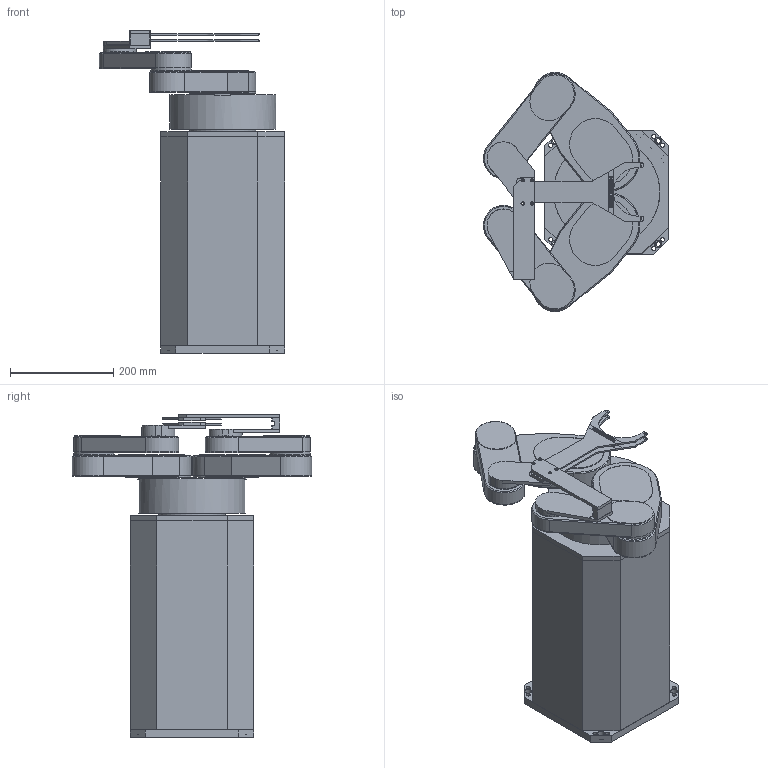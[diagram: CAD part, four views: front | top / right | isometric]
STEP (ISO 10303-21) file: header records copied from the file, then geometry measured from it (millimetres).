
FILE_DESCRIPTION(/* description */ (''),/* implementation_level */ '2;1');
FILE_NAME(/* name */ 'C:\Users\h-mitaka\Desktop\新しいフォルダー\2D-09738\STCR4160SN-300-CM-09738.stp',/* time_stamp */ '2018-04-05T10:13:30+09:00',/* author */ ('h-mitaka'),/* organization */ (''),/* preprocessor_version */ 'ST-DEVELOPER v16.13',/* originating_system */ 'Autodesk Inventor 2018',/* authorisation */ '');
FILE_SCHEMA (('AUTOMOTIVE_DESIGN { 1 0 10303 214 3 1 1 }'));
Length unit declared in the file: millimetre
Products named in the file (10): STCR4160SN-300-CM-09738; BODY-SNCST200-V; PIPE-SNCT200; ARM1-SC160; ARM2-SC160; WRIST-BLOCK1; 2-WRIST-BLOCK; END-EFFECTOR; COVER-01386-1; COVER-01387-1
Assembly tree (12 placements, depth 2):
  STCR4160SN-300-CM-09738
    BODY-SNCST200-V
    PIPE-SNCT200
    ARM1-SC160  x2
    ARM2-SC160  x2
    WRIST-BLOCK1
    2-WRIST-BLOCK
    END-EFFECTOR  x2
    COVER-01386-1
    COVER-01387-1
Bounding box: 358.99 x 463.8 x 626 mm (x, y, z)
Volume: 28536231.3 mm3; surface area: 1223616.4 mm2
Topology: 12 solids, 12 shells, 452 faces, 1146 edges, 758 vertices
Faces by surface type: plane 306, cylinder 130, cone 16
Full cylindrical faces by diameter (mm): 3 x8, 3.5 x4, 3.6 x4, 4 x2, 6 x4, 8 x8, 9 x4, 10 x4, 14 x4, 50 x4, 51 x1, 61 x2, 71 x2, 77.99 x2, 80 x2, 127.99 x2, 129 x2, 206 x1
Entity records: 10448 total; most frequent: DIRECTION 1763, CARTESIAN_POINT 1728, ORIENTED_EDGE 1592, EDGE_CURVE 796, AXIS2_PLACEMENT_3D 597, LINE 569, VECTOR 569, VERTEX_POINT 562
